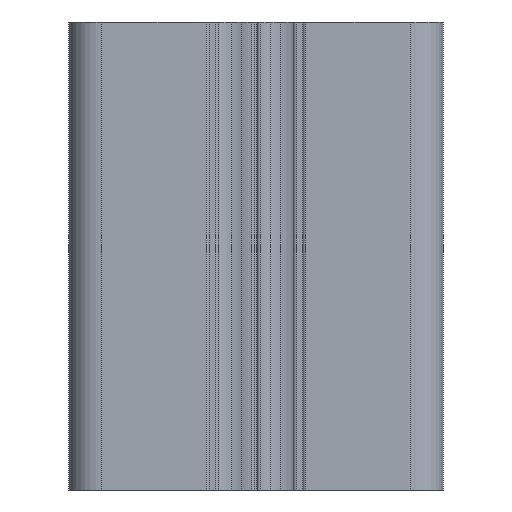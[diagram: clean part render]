
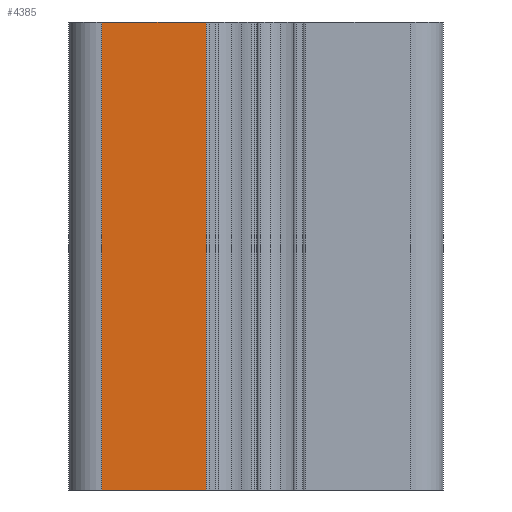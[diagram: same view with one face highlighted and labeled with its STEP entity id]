
A CAD part, left-side view. The second image highlights one B-rep face of the part: STEP entity #4385.
In plain terms, the highlighted planar face has unit normal (-1, 0, 0).
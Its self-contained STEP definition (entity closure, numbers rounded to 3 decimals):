
#443 = ORIENTED_EDGE ( 'NONE', *, *, #4137, .F. ) ;
#625 = VECTOR ( 'NONE', #1006, 1000. ) ;
#706 = CARTESIAN_POINT ( 'NONE',  ( 336.492, 215.098, 50. ) ) ;
#763 = ORIENTED_EDGE ( 'NONE', *, *, #5814, .T. ) ;
#783 = ORIENTED_EDGE ( 'NONE', *, *, #6554, .T. ) ;
#875 = PLANE ( 'NONE',  #1263 ) ;
#1006 = DIRECTION ( 'NONE',  ( 0., 0., 1. ) ) ;
#1222 = VERTEX_POINT ( 'NONE', #7784 ) ;
#1263 = AXIS2_PLACEMENT_3D ( 'NONE', #3385, #1487, #6979 ) ;
#1391 = VERTEX_POINT ( 'NONE', #706 ) ;
#1487 = DIRECTION ( 'NONE',  ( -1., 0., 0. ) ) ;
#2068 = LINE ( 'NONE', #7715, #6733 ) ;
#2157 = VERTEX_POINT ( 'NONE', #5270 ) ;
#3229 = DIRECTION ( 'NONE',  ( 0., -1., 0. ) ) ;
#3385 = CARTESIAN_POINT ( 'NONE',  ( 336.492, 215.098, 0. ) ) ;
#3688 = EDGE_LOOP ( 'NONE', ( #783, #443, #5244, #763 ) ) ;
#3892 = LINE ( 'NONE', #6490, #625 ) ;
#4137 = EDGE_CURVE ( 'NONE', #2157, #1391, #7240, .T. ) ;
#4370 = VERTEX_POINT ( 'NONE', #6996 ) ;
#4385 = ADVANCED_FACE ( 'NONE', ( #7390 ), #875, .T. ) ;
#4451 = CARTESIAN_POINT ( 'NONE',  ( 336.492, 226.298, 50. ) ) ;
#4670 = DIRECTION ( 'NONE',  ( 0., 0., -1. ) ) ;
#4866 = EDGE_CURVE ( 'NONE', #2157, #4370, #2068, .T. ) ;
#4997 = CARTESIAN_POINT ( 'NONE',  ( 336.492, 215.098, 0. ) ) ;
#5228 = VECTOR ( 'NONE', #7606, 1000. ) ;
#5244 = ORIENTED_EDGE ( 'NONE', *, *, #4866, .T. ) ;
#5270 = CARTESIAN_POINT ( 'NONE',  ( 336.492, 226.298, 50. ) ) ;
#5510 = VECTOR ( 'NONE', #3229, 1000. ) ;
#5814 = EDGE_CURVE ( 'NONE', #4370, #1222, #5899, .T. ) ;
#5899 = LINE ( 'NONE', #4997, #5228 ) ;
#6490 = CARTESIAN_POINT ( 'NONE',  ( 336.492, 215.098, 0. ) ) ;
#6554 = EDGE_CURVE ( 'NONE', #1222, #1391, #3892, .T. ) ;
#6733 = VECTOR ( 'NONE', #4670, 1000. ) ;
#6979 = DIRECTION ( 'NONE',  ( 0., 0., 1. ) ) ;
#6996 = CARTESIAN_POINT ( 'NONE',  ( 336.492, 226.298, 0. ) ) ;
#7240 = LINE ( 'NONE', #4451, #5510 ) ;
#7390 = FACE_OUTER_BOUND ( 'NONE', #3688, .T. ) ;
#7606 = DIRECTION ( 'NONE',  ( 0., -1., 0. ) ) ;
#7715 = CARTESIAN_POINT ( 'NONE',  ( 336.492, 226.298, 0. ) ) ;
#7784 = CARTESIAN_POINT ( 'NONE',  ( 336.492, 215.098, 0. ) ) ;
